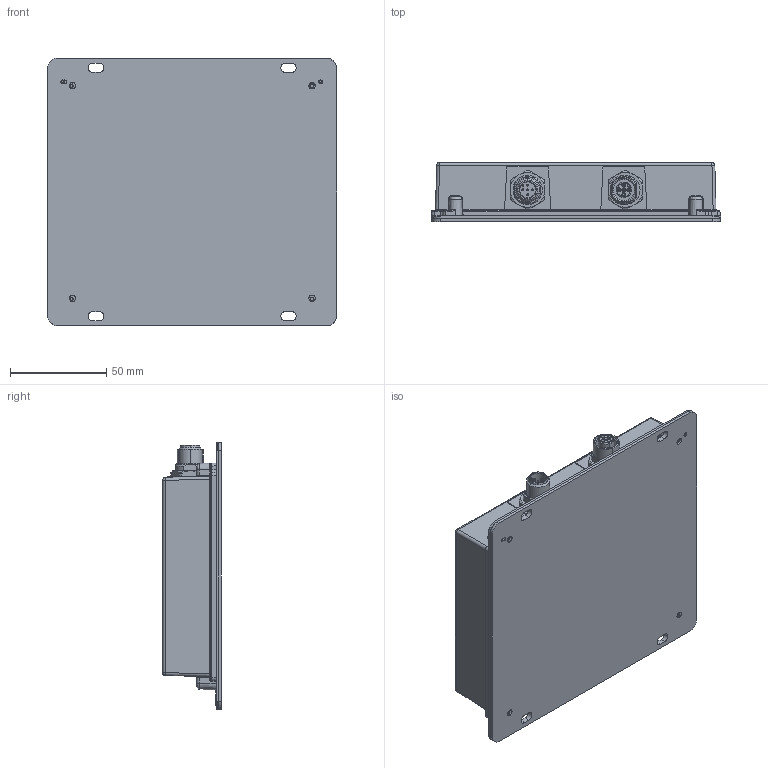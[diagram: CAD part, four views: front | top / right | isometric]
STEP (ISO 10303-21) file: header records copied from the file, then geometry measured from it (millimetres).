
FILE_DESCRIPTION (( 'STEP AP203' ), '1' );
FILE_NAME ('SL-S100150X-XXX.STEP', '2017-05-23T19:15:50', ( '' ), ( '' ), 'SwSTEP 2.0', 'SolidWorks 2017', '' );
FILE_SCHEMA (( 'CONFIG_CONTROL_DESIGN' ));
Products named in the file (1): SL-S100150X-XXX
Bounding box: 150.26 x 30.56 x 139.01 mm (x, y, z)
Surface area: 77008.1 mm2 (no closed solid volume)
Topology: 0 solids, 29 shells, 625 faces, 2967 edges, 2257 vertices
Faces by surface type: plane 257, cylinder 213, bspline 97, cone 50, torus 8
Entity records: 38268 total; most frequent: CARTESIAN_POINT 16371, ORIENTED_EDGE 4263, DIRECTION 3917, EDGE_CURVE 2956, VERTEX_POINT 2257, LINE 1713, VECTOR 1713, AXIS2_PLACEMENT_3D 1102
